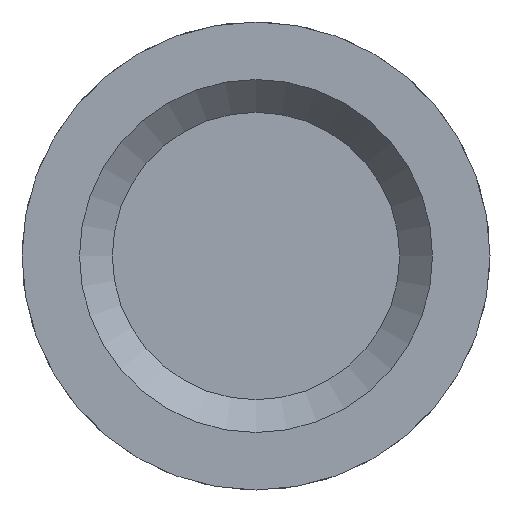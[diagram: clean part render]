
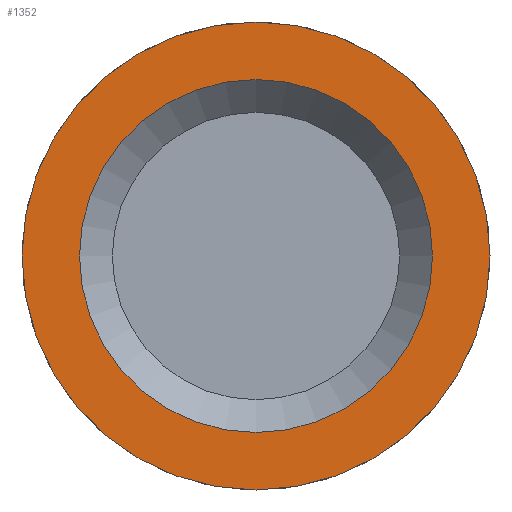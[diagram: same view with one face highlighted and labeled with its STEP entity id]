
A CAD part, front view. The second image highlights one B-rep face of the part: STEP entity #1352.
In plain terms, the highlighted planar face has unit normal (0, -1, 0).
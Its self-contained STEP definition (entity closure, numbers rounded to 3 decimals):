
#181=PLANE('',#1471);
#217=ORIENTED_EDGE('',*,*,#398,.T.);
#218=ORIENTED_EDGE('',*,*,#388,.F.);
#388=EDGE_CURVE('',#479,#479,#575,.T.);
#398=EDGE_CURVE('',#489,#489,#585,.T.);
#479=VERTEX_POINT('',#1986);
#489=VERTEX_POINT('',#2008);
#575=CIRCLE('',#1460,142.5);
#585=CIRCLE('',#1472,107.5);
#659=EDGE_LOOP('',(#217));
#660=EDGE_LOOP('',(#218));
#813=FACE_BOUND('',#659,.T.);
#814=FACE_BOUND('',#660,.T.);
#1352=ADVANCED_FACE('',(#813,#814),#181,.F.);
#1460=AXIS2_PLACEMENT_3D('',#1985,#1638,#1639);
#1471=AXIS2_PLACEMENT_3D('',#2006,#1660,#1661);
#1472=AXIS2_PLACEMENT_3D('',#2007,#1662,#1663);
#1638=DIRECTION('',(0.,1.,0.));
#1639=DIRECTION('',(0.,0.,1.));
#1660=DIRECTION('',(0.,1.,0.));
#1661=DIRECTION('',(0.,0.,1.));
#1662=DIRECTION('',(0.,1.,0.));
#1663=DIRECTION('',(0.,0.,1.));
#1985=CARTESIAN_POINT('',(0.,0.,0.));
#1986=CARTESIAN_POINT('',(0.,0.,142.5));
#2006=CARTESIAN_POINT('',(0.,0.,0.));
#2007=CARTESIAN_POINT('',(0.,0.,0.));
#2008=CARTESIAN_POINT('',(0.,0.,107.5));
